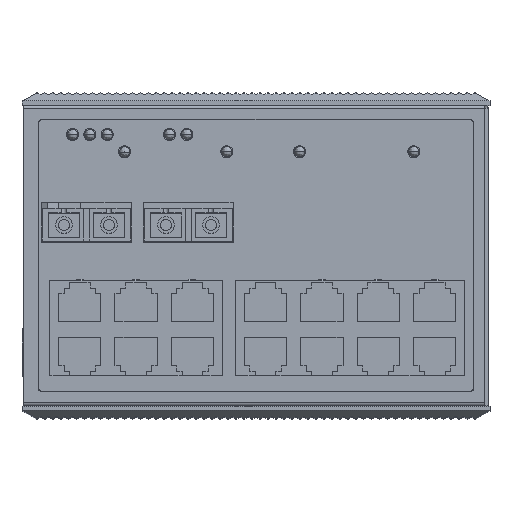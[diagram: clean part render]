
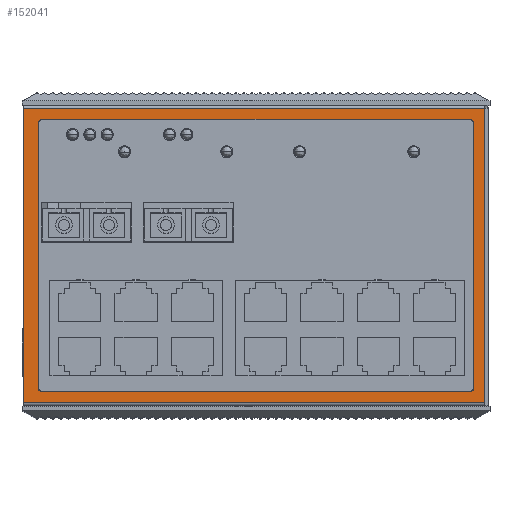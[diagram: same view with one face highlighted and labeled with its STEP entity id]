
A CAD part, top view. The second image highlights one B-rep face of the part: STEP entity #152041.
In plain terms, the highlighted planar face has unit normal (0, 0, 1).
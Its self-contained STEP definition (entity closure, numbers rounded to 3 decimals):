
#142966=DIRECTION('',(0.,-1.,0.));
#142967=VECTOR('',#142966,84.8);
#142968=CARTESIAN_POINT('',(66.7,84.85,70.86));
#142969=LINE('',#142968,#142967);
#142978=CARTESIAN_POINT('',(62.5,4.15,70.86));
#142979=DIRECTION('',(0.,0.,-1.));
#142980=DIRECTION('',(1.,0.,0.));
#142981=AXIS2_PLACEMENT_3D('',#142978,#142979,#142980);
#142983=DIRECTION('',(0.,-1.,0.));
#142984=VECTOR('',#142983,76.6);
#142985=CARTESIAN_POINT('',(63.5,80.75,70.86));
#142986=LINE('',#142985,#142984);
#142987=CARTESIAN_POINT('',(62.5,80.75,70.86));
#142988=DIRECTION('',(0.,0.,-1.));
#142989=DIRECTION('',(0.,1.,0.));
#142990=AXIS2_PLACEMENT_3D('',#142987,#142988,#142989);
#142992=DIRECTION('',(1.,0.,0.));
#142993=VECTOR('',#142992,123.6);
#142994=CARTESIAN_POINT('',(-61.1,81.75,70.86));
#142995=LINE('',#142994,#142993);
#142996=CARTESIAN_POINT('',(-61.1,80.75,70.86));
#142997=DIRECTION('',(0.,0.,-1.));
#142998=DIRECTION('',(-1.,0.,0.));
#142999=AXIS2_PLACEMENT_3D('',#142996,#142997,#142998);
#143001=DIRECTION('',(0.,1.,0.));
#143002=VECTOR('',#143001,76.6);
#143003=CARTESIAN_POINT('',(-62.1,4.15,70.86));
#143004=LINE('',#143003,#143002);
#143005=CARTESIAN_POINT('',(-61.1,4.15,70.86));
#143006=DIRECTION('',(0.,0.,-1.));
#143007=DIRECTION('',(0.,-1.,0.));
#143008=AXIS2_PLACEMENT_3D('',#143005,#143006,#143007);
#143010=DIRECTION('',(-1.,0.,0.));
#143011=VECTOR('',#143010,123.6);
#143012=CARTESIAN_POINT('',(62.5,3.15,70.86));
#143013=LINE('',#143012,#143011);
#143018=DIRECTION('',(1.,0.,0.));
#143019=VECTOR('',#143018,133.);
#143020=CARTESIAN_POINT('',(-66.3,84.85,70.86));
#143021=LINE('',#143020,#143019);
#147165=DIRECTION('',(0.,1.,0.));
#147166=VECTOR('',#147165,84.8);
#147167=CARTESIAN_POINT('',(-66.3,0.05,70.86));
#147168=LINE('',#147167,#147166);
#147203=DIRECTION('',(-1.,0.,0.));
#147204=VECTOR('',#147203,133.);
#147205=CARTESIAN_POINT('',(66.7,0.05,70.86));
#147206=LINE('',#147205,#147204);
#148209=CARTESIAN_POINT('',(-66.3,84.85,70.86));
#148210=VERTEX_POINT('',#148209);
#148211=CARTESIAN_POINT('',(66.7,84.85,70.86));
#148212=VERTEX_POINT('',#148211);
#148287=CARTESIAN_POINT('',(-66.3,0.05,70.86));
#148288=VERTEX_POINT('',#148287);
#148289=CARTESIAN_POINT('',(66.7,0.05,70.86));
#148290=VERTEX_POINT('',#148289);
#148345=CARTESIAN_POINT('',(63.5,4.15,70.86));
#148346=CARTESIAN_POINT('',(62.5,3.15,70.86));
#148347=VERTEX_POINT('',#148345);
#148348=VERTEX_POINT('',#148346);
#148379=CARTESIAN_POINT('',(-61.1,3.15,70.86));
#148380=VERTEX_POINT('',#148379);
#148381=CARTESIAN_POINT('',(63.5,80.75,70.86));
#148382=VERTEX_POINT('',#148381);
#148407=CARTESIAN_POINT('',(-62.1,4.15,70.86));
#148408=VERTEX_POINT('',#148407);
#148409=CARTESIAN_POINT('',(62.5,81.75,70.86));
#148410=VERTEX_POINT('',#148409);
#148459=CARTESIAN_POINT('',(-62.1,80.75,70.86));
#148460=VERTEX_POINT('',#148459);
#148463=CARTESIAN_POINT('',(-61.1,81.75,70.86));
#148464=VERTEX_POINT('',#148463);
#152009=CARTESIAN_POINT('',(66.7,84.85,70.86));
#152010=DIRECTION('',(0.,0.,-1.));
#152011=DIRECTION('',(1.,0.,0.));
#152012=AXIS2_PLACEMENT_3D('',#152009,#152010,#152011);
#152013=PLANE('',#152012);
#152015=ORIENTED_EDGE('',*,*,#152014,.T.);
#152016=ORIENTED_EDGE('',*,*,#151999,.T.);
#152018=ORIENTED_EDGE('',*,*,#152017,.T.);
#152020=ORIENTED_EDGE('',*,*,#152019,.T.);
#152021=EDGE_LOOP('',(#152015,#152016,#152018,#152020));
#152022=FACE_OUTER_BOUND('',#152021,.F.);
#152024=ORIENTED_EDGE('',*,*,#152023,.F.);
#152026=ORIENTED_EDGE('',*,*,#152025,.F.);
#152028=ORIENTED_EDGE('',*,*,#152027,.F.);
#152030=ORIENTED_EDGE('',*,*,#152029,.F.);
#152032=ORIENTED_EDGE('',*,*,#152031,.F.);
#152034=ORIENTED_EDGE('',*,*,#152033,.F.);
#152036=ORIENTED_EDGE('',*,*,#152035,.F.);
#152038=ORIENTED_EDGE('',*,*,#152037,.F.);
#152039=EDGE_LOOP('',(#152024,#152026,#152028,#152030,#152032,#152034,#152036,
#152038));
#152040=FACE_BOUND('',#152039,.F.);
#152041=ADVANCED_FACE('',(#152022,#152040),#152013,.F.);
#142982=CIRCLE('',#142981,1.);
#142991=CIRCLE('',#142990,1.);
#143000=CIRCLE('',#142999,1.);
#143009=CIRCLE('',#143008,1.);
#151999=EDGE_CURVE('',#148212,#148290,#142969,.T.);
#152014=EDGE_CURVE('',#148210,#148212,#143021,.T.);
#152017=EDGE_CURVE('',#148290,#148288,#147206,.T.);
#152019=EDGE_CURVE('',#148288,#148210,#147168,.T.);
#152023=EDGE_CURVE('',#148347,#148348,#142982,.T.);
#152025=EDGE_CURVE('',#148382,#148347,#142986,.T.);
#152027=EDGE_CURVE('',#148410,#148382,#142991,.T.);
#152029=EDGE_CURVE('',#148464,#148410,#142995,.T.);
#152031=EDGE_CURVE('',#148460,#148464,#143000,.T.);
#152033=EDGE_CURVE('',#148408,#148460,#143004,.T.);
#152035=EDGE_CURVE('',#148380,#148408,#143009,.T.);
#152037=EDGE_CURVE('',#148348,#148380,#143013,.T.);
